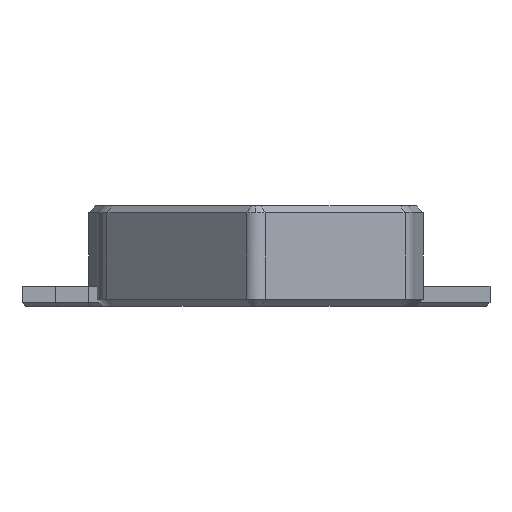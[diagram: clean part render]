
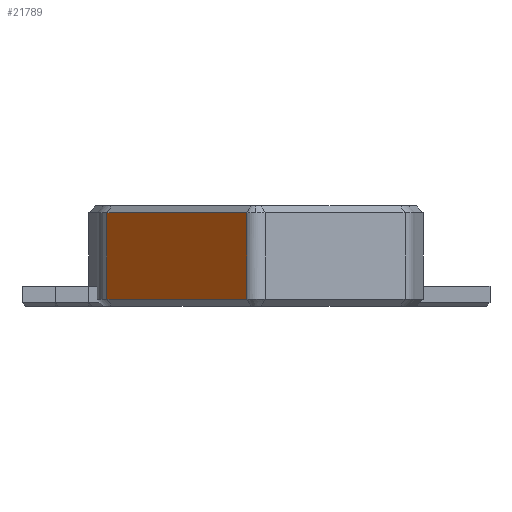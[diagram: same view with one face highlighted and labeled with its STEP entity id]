
A CAD part, left-side view. The second image highlights one B-rep face of the part: STEP entity #21789.
In plain terms, the highlighted planar face has unit normal (-0.707, 0.707, 0).
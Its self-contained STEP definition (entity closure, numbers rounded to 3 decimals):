
#39 = DIRECTION ( 'NONE',  ( -0.707, -0.707, 0. ) ) ;
#294 = VECTOR ( 'NONE', #16761, 1000. ) ;
#1292 = EDGE_CURVE ( 'NONE', #12833, #15093, #11032, .T. ) ;
#1775 = VECTOR ( 'NONE', #16355, 1000. ) ;
#2247 = CARTESIAN_POINT ( 'NONE',  ( -88.586, 1.414, 15. ) ) ;
#2650 = CARTESIAN_POINT ( 'NONE',  ( -88.586, 1.414, 1. ) ) ;
#4194 = AXIS2_PLACEMENT_3D ( 'NONE', #5353, #10788, #39 ) ;
#5029 = DIRECTION ( 'NONE',  ( 0., 0., -1. ) ) ;
#5033 = VERTEX_POINT ( 'NONE', #9071 ) ;
#5353 = CARTESIAN_POINT ( 'NONE',  ( -65., 25., 15. ) ) ;
#5663 = EDGE_CURVE ( 'NONE', #15411, #12833, #9694, .T. ) ;
#8573 = CARTESIAN_POINT ( 'NONE',  ( -65., 25., 14. ) ) ;
#8596 = CARTESIAN_POINT ( 'NONE',  ( -67.713, 22.287, 15. ) ) ;
#8641 = VECTOR ( 'NONE', #5029, 1000. ) ;
#8687 = VECTOR ( 'NONE', #14026, 1000. ) ;
#9071 = CARTESIAN_POINT ( 'NONE',  ( -67.713, 22.287, 14. ) ) ;
#9694 = LINE ( 'NONE', #2650, #294 ) ;
#9999 = ORIENTED_EDGE ( 'NONE', *, *, #1292, .T. ) ;
#10395 = ORIENTED_EDGE ( 'NONE', *, *, #5663, .T. ) ;
#10452 = FACE_OUTER_BOUND ( 'NONE', #15581, .T. ) ;
#10788 = DIRECTION ( 'NONE',  ( -0.707, 0.707, 0. ) ) ;
#11032 = LINE ( 'NONE', #2247, #1775 ) ;
#11937 = CARTESIAN_POINT ( 'NONE',  ( -88.586, 1.414, 14. ) ) ;
#12074 = LINE ( 'NONE', #8596, #8641 ) ;
#12833 = VERTEX_POINT ( 'NONE', #21411 ) ;
#13414 = ORIENTED_EDGE ( 'NONE', *, *, #16546, .T. ) ;
#14026 = DIRECTION ( 'NONE',  ( 0.707, 0.707, 0. ) ) ;
#15093 = VERTEX_POINT ( 'NONE', #11937 ) ;
#15411 = VERTEX_POINT ( 'NONE', #17120 ) ;
#15581 = EDGE_LOOP ( 'NONE', ( #9999, #17459, #13414, #10395 ) ) ;
#16355 = DIRECTION ( 'NONE',  ( 0., 0., 1. ) ) ;
#16546 = EDGE_CURVE ( 'NONE', #5033, #15411, #12074, .T. ) ;
#16761 = DIRECTION ( 'NONE',  ( -0.707, -0.707, 0. ) ) ;
#17120 = CARTESIAN_POINT ( 'NONE',  ( -67.713, 22.287, 1. ) ) ;
#17459 = ORIENTED_EDGE ( 'NONE', *, *, #17837, .T. ) ;
#17837 = EDGE_CURVE ( 'NONE', #15093, #5033, #21087, .T. ) ;
#19584 = PLANE ( 'NONE',  #4194 ) ;
#21087 = LINE ( 'NONE', #8573, #8687 ) ;
#21411 = CARTESIAN_POINT ( 'NONE',  ( -88.586, 1.414, 1. ) ) ;
#21789 = ADVANCED_FACE ( 'NONE', ( #10452 ), #19584, .T. ) ;
